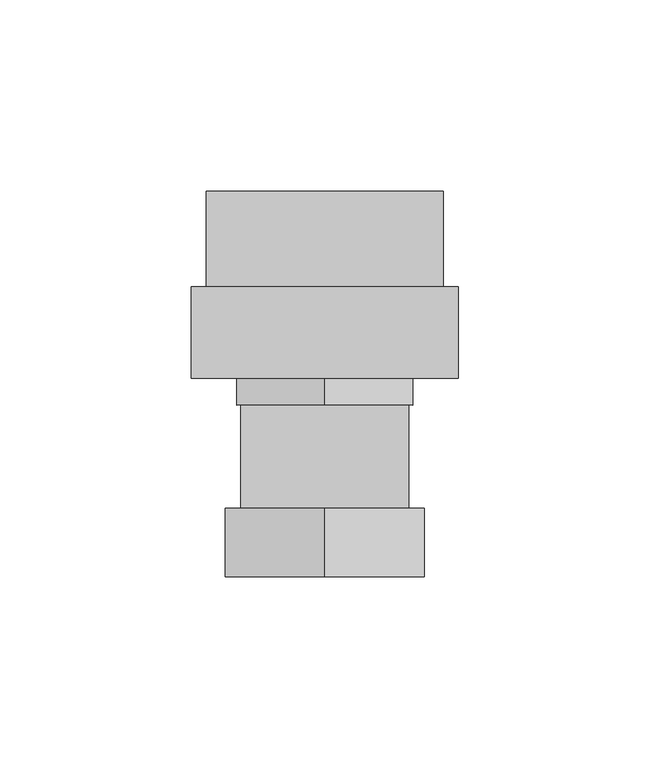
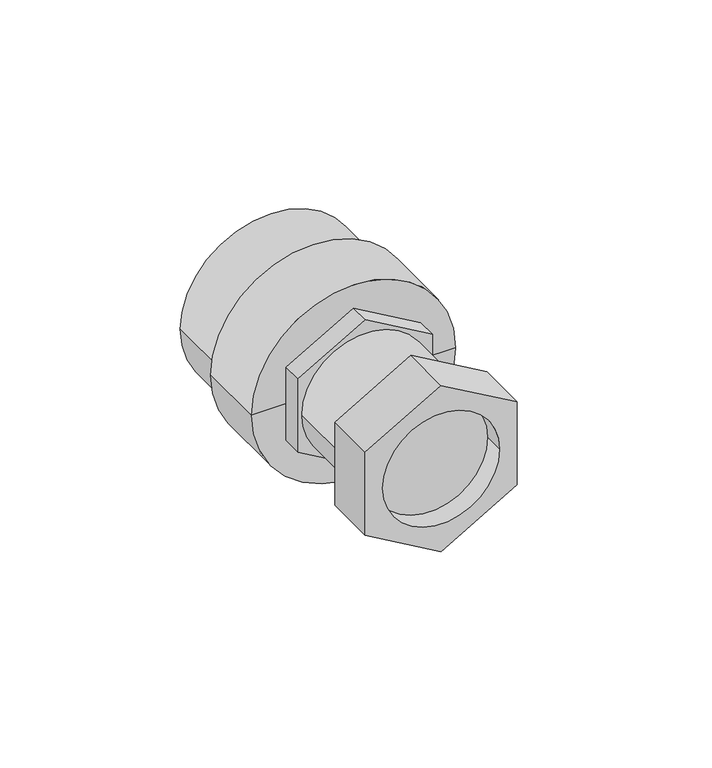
"""IFC4 building model written with IfcOpenShell, lengths in millimetres: pipe fitting geometry, NIRON RED termofusion roscado racor loco : Estándar."""

from ifc_helpers import new_model, si_unit, point, frame, origin, origin_2d, place, context, project, spatial, polyline, circle_curve, trimmed, segment, composite_curve, outline, extrude, source, transform, mapped, element, save
from ifc_brep_helpers import plane_surface, cylinder_surface, revolved_surface, advanced_brep


def pipe_fitting_229a0d3e(model_context):
    return source(origin(), model_context, "Body", "SolidModel", [
        advanced_brep(
        [(26.0, 9.0, -15.011107), (26.0, 9.0, 15.011107), (0.0, 9.0, 30.022214), (-26.0, 9.0, 15.011107), (-26.0, 9.0, -15.011107), (0.0, 9.0, -30.022214), (20.0, 9.0, 0.0), (-20.0, 9.0, 0.0), (26.0, 27.0, -15.011107), (0.0, 27.0, -30.022214), (-26.0, 27.0, -15.011107), (-26.0, 27.0, 15.011107), (0.0, 27.0, 30.022214), (26.0, 27.0, 15.011107), (-20.0, 16.0570795, 0.0), (20.0, 16.0570795, 0.0)],
        [
            (0, 1),
            (1, 2),
            (2, 3),
            (3, 4),
            (4, 5),
            (5, 0),
            (6, 7, circle_curve(frame((0.0, 9.0, 0.0), z_axis=(0.0, 1.0, 0.0), x_axis=(1.0, 0.0, 0.0)), 20.0)),
            (7, 6, circle_curve(frame((0.0, 9.0, 0.0), z_axis=(0.0, 1.0, 0.0), x_axis=(1.0, 0.0, 0.0)), 20.0)),
            (8, 9),
            (9, 10),
            (10, 11),
            (11, 12),
            (12, 13),
            (13, 8),
            (0, 8),
            (13, 1),
            (12, 2),
            (11, 3),
            (10, 4),
            (9, 5),
            (14, 15, circle_curve(frame((0.0, 16.0570795, 0.0), z_axis=(0.0, -1.0, 0.0), x_axis=(1.0, 0.0, 0.0)), 20.0)),
            (15, 14, circle_curve(frame((0.0, 16.0570795, 0.0), z_axis=(0.0, -1.0, 0.0), x_axis=(1.0, 0.0, 0.0)), 20.0)),
            (14, 7),
            (6, 15),
        ],
        [
            plane_surface(frame((0.0, 9.0, 0.0), z_axis=(0.0, -1.0, 0.0), x_axis=(0.0, 0.0, 1.0))),
            plane_surface(frame((0.0, 27.0, 0.0), z_axis=(0.0, 1.0, 0.0), x_axis=(0.0, 0.0, 1.0))),
            plane_surface(frame((26.0, 9.0, -15.011107), z_axis=(1.0, 0.0, 0.0), x_axis=(0.0, 1.0, 0.0))),
            plane_surface(frame((26.0, 9.0, 15.011107), z_axis=(0.4999999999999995, 0.0, 0.8660254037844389), x_axis=(0.0, 1.0, 0.0))),
            plane_surface(frame((0.0, 9.0, 30.022214), z_axis=(-0.49999999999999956, 0.0, 0.8660254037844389), x_axis=(0.0, 1.0, 0.0))),
            plane_surface(frame((-26.0, 9.0, 15.011107), z_axis=(-1.0, 0.0, 0.0), x_axis=(0.0, 1.0, 0.0))),
            plane_surface(frame((-26.0, 9.0, -15.011107), z_axis=(-0.4999999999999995, 0.0, -0.866025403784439), x_axis=(0.0, 1.0, 0.0))),
            plane_surface(frame((0.0, 9.0, -30.022214), z_axis=(0.49999999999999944, 0.0, -0.866025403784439), x_axis=(0.0, 1.0, 0.0))),
            plane_surface(frame((20.0, 16.0570795, 0.0), z_axis=(0.0, -1.0, 0.0), x_axis=(0.0, 0.0, -1.0))),
            revolved_surface(polyline([(20.0, 9.0, 0.0), (20.0, 16.0570795, 0.0)]), (0.0, 16.0570795, 0.0), (0.0, -1.0, 0.0)),
        ],
        [
            (0, [[1, 2, 3, 4, 5, 6], [7, 8]]),
            (1, [[9, 10, 11, 12, 13, 14]]),
            (2, [[-1, 15, -14, 16]]),
            (3, [[-2, -16, -13, 17]]),
            (4, [[-3, -17, -12, 18]]),
            (5, [[-4, -18, -11, 19]]),
            (6, [[-5, -19, -10, 20]]),
            (7, [[-6, -20, -9, -15]]),
            (8, [[21, 22]]),
            (9, [[-21, 23, -7, 24]]),
            (9, [[-22, -24, -8, -23]]),
        ],
    ),
        extrude(outline(polyline([(-13.2790562, 23.0), (13.2790562, 23.0), (26.5581124, 0.0), (13.2790562, -23.0), (-13.2790562, -23.0), (-26.5581124, 0.0), (-13.2790562, 23.0)])), frame((0.0, 54.0, 0.0), z_axis=(0.0, 1.0, 0.0), x_axis=(0.0, 0.0, 1.0)), (0.0, 0.0, 1.0), 7.0),
        extrude(outline(composite_curve([segment(trimmed(circle_curve(origin_2d(), 22.0), [point((0.0, -22.0))], [point((0.0, 22.0))], False, "CARTESIAN"), True, "CONTINUOUS"), segment(trimmed(circle_curve(origin_2d(), 22.0), [point((0.0, 22.0))], [point((0.0, -22.0))], False, "CARTESIAN"), True, "CONTINUOUS")], self_intersect=False)), frame((0.0, 27.0, 0.0), z_axis=(0.0, 1.0, 0.0), x_axis=(0.0, 0.0, 1.0)), (0.0, 0.0, 1.0), 27.0),
        advanced_brep(
        [(31.0, 110.0, 0.0), (-31.0, 110.0, 0.0), (0.0, 110.0, 0.0), (35.0, 61.0, 0.0), (-35.0, 61.0, 0.0), (-35.0, 85.0, 0.0), (35.0, 85.0, 0.0), (0.0, 61.0, 0.0), (31.0, 85.0, 0.0), (-31.0, 85.0, 0.0)],
        [
            (0, 1, circle_curve(frame((0.0, 110.0, 0.0), z_axis=(0.0, 1.0, 0.0), x_axis=(-1.0, 0.0, 0.0)), 31.0)),
            (1, 2),
            (2, 0),
            (1, 0, circle_curve(frame((0.0, 110.0, 0.0), z_axis=(0.0, 1.0, 0.0), x_axis=(-1.0, 0.0, 0.0)), 31.0)),
            (3, 4, circle_curve(frame((0.0, 61.0, 0.0), z_axis=(0.0, 1.0, 0.0), x_axis=(-1.0, 0.0, 0.0)), 35.0)),
            (4, 5),
            (5, 6, circle_curve(frame((0.0, 85.0, 0.0), z_axis=(0.0, -1.0, 0.0), x_axis=(-1.0, 0.0, 0.0)), 35.0)),
            (6, 3),
            (4, 3, circle_curve(frame((0.0, 61.0, 0.0), z_axis=(0.0, 1.0, 0.0), x_axis=(-1.0, 0.0, 0.0)), 35.0)),
            (6, 5, circle_curve(frame((0.0, 85.0, 0.0), z_axis=(0.0, -1.0, 0.0), x_axis=(-1.0, 0.0, 0.0)), 35.0)),
            (7, 4),
            (3, 7),
            (8, 9, circle_curve(frame((0.0, 85.0, 0.0), z_axis=(0.0, 1.0, 0.0), x_axis=(-1.0, 0.0, 0.0)), 31.0)),
            (9, 1),
            (0, 8),
            (9, 8, circle_curve(frame((0.0, 85.0, 0.0), z_axis=(0.0, 1.0, 0.0), x_axis=(-1.0, 0.0, 0.0)), 31.0)),
            (5, 9),
            (8, 6),
        ],
        [
            plane_surface(frame((0.0, 110.0, 0.0), z_axis=(0.0, 1.0, 0.0), x_axis=(-1.0, 0.0, 0.0))),
            cylinder_surface(frame((0.0, 120.0, 0.0), z_axis=(0.0, -1.0, 0.0), x_axis=(-1.0, 0.0, 0.0)), 35.0),
            plane_surface(frame((0.0, 61.0, 0.0), z_axis=(0.0, -1.0, 0.0), x_axis=(-1.0, 0.0, 0.0))),
            cylinder_surface(frame((0.0, 120.0, 0.0), z_axis=(0.0, -1.0, 0.0), x_axis=(-1.0, 0.0, 0.0)), 31.0),
            plane_surface(frame((0.0, 85.0, 0.0), z_axis=(0.0, 1.0, 0.0), x_axis=(-1.0, 0.0, 0.0))),
        ],
        [
            (0, [[1, 2, 3]]),
            (0, [[4, -3, -2]]),
            (1, [[5, 6, 7, 8]]),
            (1, [[9, -8, 10, -6]]),
            (2, [[11, -5, 12]]),
            (2, [[-12, -9, -11]]),
            (3, [[13, 14, -1, 15]]),
            (3, [[16, -15, -4, -14]]),
            (4, [[-7, 17, -13, 18]]),
            (4, [[-10, -18, -16, -17]]),
        ],
    ),
    ])


if __name__ == "__main__":
    model = new_model("IFC4")
    model_context = context("Model", 3, world=origin())
    ifc_project = project(units=[si_unit("LENGTHUNIT", "METRE", prefix="MILLI")], contexts=[model_context])
    site = spatial("IfcSite", under=ifc_project)
    building = spatial("IfcBuilding", under=site)
    placement = place(None, origin())
    pipe_fitting_shape = pipe_fitting_229a0d3e(model_context)
    element("IfcPipeFitting", 1, ObjectType="NIRON RED termofusion roscado racor loco : Estándar", at=placement, inside=building, context=model_context, shape_type="MappedRepresentation", body=[
        mapped(pipe_fitting_shape, transform((0.0, 0.0, 0.0), x_axis=(1.0, 0.0, 0.0), y_axis=(0.0, 1.0, 0.0), z_axis=(0.0, 0.0, 1.0))),
    ])
    save(model, "model.ifc")
